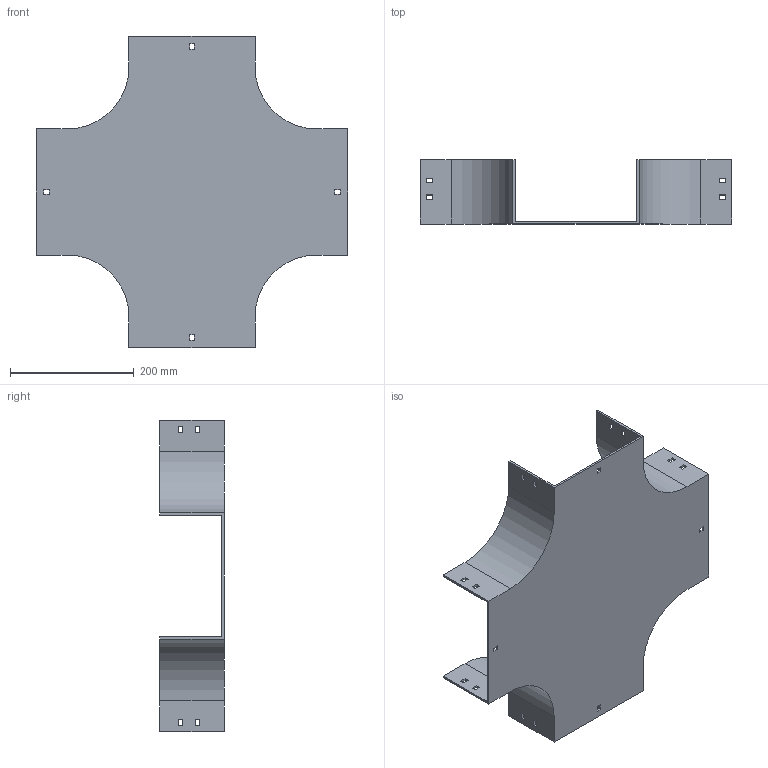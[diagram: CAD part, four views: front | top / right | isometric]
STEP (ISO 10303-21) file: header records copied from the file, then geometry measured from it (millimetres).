
FILE_DESCRIPTION (( 'STEP AP214' ), '1' );
FILE_NAME ('17B1D200.step', '2025-02-21T09:56:12', ( '' ), ( '' ), 'SwSTEP 2.0', 'SolidWorks 2023', '' );
FILE_SCHEMA (( 'AUTOMOTIVE_DESIGN' ));
Length unit declared in the file: millimetre
Products named in the file (1): 17B1D200
Bounding box: 504 x 104 x 504 mm (x, y, z)
Volume: 964940 mm3; surface area: 563001.4 mm2
Topology: 1 solids, 1 shells, 114 faces, 336 edges, 224 vertices
Faces by surface type: plane 106, cylinder 8
Entity records: 3839 total; most frequent: CARTESIAN_POINT 675, ORIENTED_EDGE 672, DIRECTION 582, EDGE_CURVE 336, VECTOR 320, LINE 320, VERTEX_POINT 224, EDGE_LOOP 154
